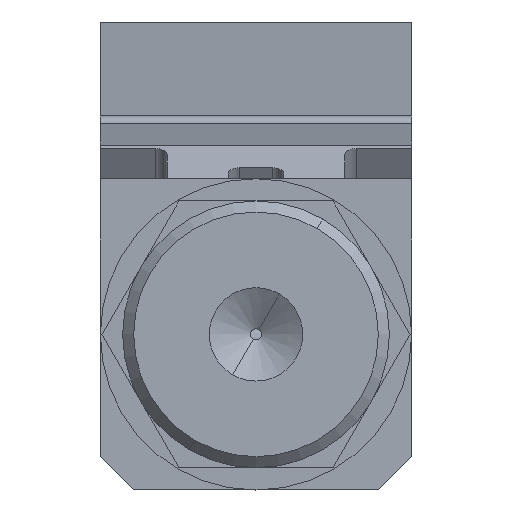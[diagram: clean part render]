
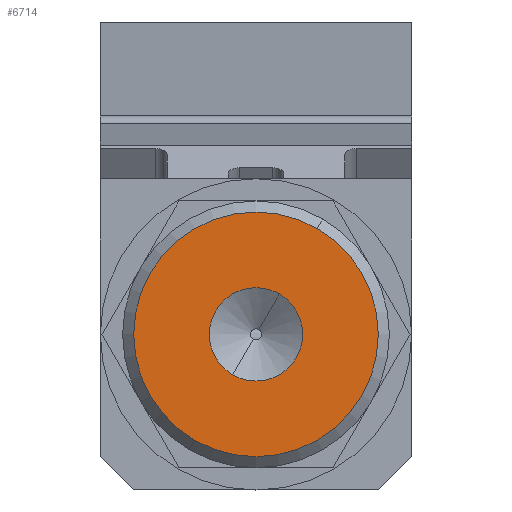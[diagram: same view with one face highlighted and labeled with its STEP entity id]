
A CAD part, left-side view. The second image highlights one B-rep face of the part: STEP entity #6714.
In plain terms, the highlighted planar face has unit normal (-1, 0, 0).
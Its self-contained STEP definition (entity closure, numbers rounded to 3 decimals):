
#50 = VERTEX_POINT ( 'NONE', #8756 ) ;
#542 = ORIENTED_EDGE ( 'NONE', *, *, #8994, .T. ) ;
#667 = EDGE_LOOP ( 'NONE', ( #542, #11234 ) ) ;
#1276 = DIRECTION ( 'NONE',  ( -1., 0., 0. ) ) ;
#2033 = EDGE_CURVE ( 'NONE', #3583, #50, #12095, .T. ) ;
#2320 = VERTEX_POINT ( 'NONE', #10477 ) ;
#2385 = DIRECTION ( 'NONE',  ( 1., 0., 0. ) ) ;
#2549 = CIRCLE ( 'NONE', #8636, 5.5 ) ;
#2847 = FACE_BOUND ( 'NONE', #667, .T. ) ;
#3303 = PLANE ( 'NONE',  #9153 ) ;
#3343 = DIRECTION ( 'NONE',  ( -1., 0., 0. ) ) ;
#3400 = EDGE_LOOP ( 'NONE', ( #4278, #11443 ) ) ;
#3583 = VERTEX_POINT ( 'NONE', #8336 ) ;
#4269 = CARTESIAN_POINT ( 'NONE',  ( -9.5, 0., 0. ) ) ;
#4278 = ORIENTED_EDGE ( 'NONE', *, *, #11929, .T. ) ;
#4997 = CARTESIAN_POINT ( 'NONE',  ( -9.5, 0., 0. ) ) ;
#5266 = DIRECTION ( 'NONE',  ( 0., -0.5, 0.866 ) ) ;
#5347 = CARTESIAN_POINT ( 'NONE',  ( -9.5, 2.75, -4.763 ) ) ;
#5995 = DIRECTION ( 'NONE',  ( 0., 0.5, -0.866 ) ) ;
#6714 = ADVANCED_FACE ( 'NONE', ( #12734, #2847 ), #3303, .T. ) ;
#7189 = CARTESIAN_POINT ( 'NONE',  ( -9.5, 0., 0. ) ) ;
#7475 = EDGE_CURVE ( 'NONE', #2320, #11149, #10262, .T. ) ;
#7755 = AXIS2_PLACEMENT_3D ( 'NONE', #4269, #11165, #5266 ) ;
#8170 = DIRECTION ( 'NONE',  ( 0., 0.5, -0.866 ) ) ;
#8323 = CARTESIAN_POINT ( 'NONE',  ( -9.5, 0., 0. ) ) ;
#8336 = CARTESIAN_POINT ( 'NONE',  ( -9.5, -1.05, 1.819 ) ) ;
#8396 = CIRCLE ( 'NONE', #7755, 2.1 ) ;
#8636 = AXIS2_PLACEMENT_3D ( 'NONE', #4997, #11906, #5995 ) ;
#8756 = CARTESIAN_POINT ( 'NONE',  ( -9.5, 1.05, -1.819 ) ) ;
#8994 = EDGE_CURVE ( 'NONE', #50, #3583, #8396, .T. ) ;
#9153 = AXIS2_PLACEMENT_3D ( 'NONE', #9292, #3343, #10273 ) ;
#9292 = CARTESIAN_POINT ( 'NONE',  ( -9.5, 0., 0. ) ) ;
#9335 = DIRECTION ( 'NONE',  ( 0., -0.5, 0.866 ) ) ;
#9694 = AXIS2_PLACEMENT_3D ( 'NONE', #7189, #1276, #8170 ) ;
#10262 = CIRCLE ( 'NONE', #9694, 5.5 ) ;
#10273 = DIRECTION ( 'NONE',  ( 0., -0.5, 0.866 ) ) ;
#10477 = CARTESIAN_POINT ( 'NONE',  ( -9.5, -2.75, 4.763 ) ) ;
#11149 = VERTEX_POINT ( 'NONE', #5347 ) ;
#11165 = DIRECTION ( 'NONE',  ( 1., 0., 0. ) ) ;
#11234 = ORIENTED_EDGE ( 'NONE', *, *, #2033, .T. ) ;
#11245 = AXIS2_PLACEMENT_3D ( 'NONE', #8323, #2385, #9335 ) ;
#11443 = ORIENTED_EDGE ( 'NONE', *, *, #7475, .T. ) ;
#11906 = DIRECTION ( 'NONE',  ( -1., 0., 0. ) ) ;
#11929 = EDGE_CURVE ( 'NONE', #11149, #2320, #2549, .T. ) ;
#12095 = CIRCLE ( 'NONE', #11245, 2.1 ) ;
#12734 = FACE_OUTER_BOUND ( 'NONE', #3400, .T. ) ;
